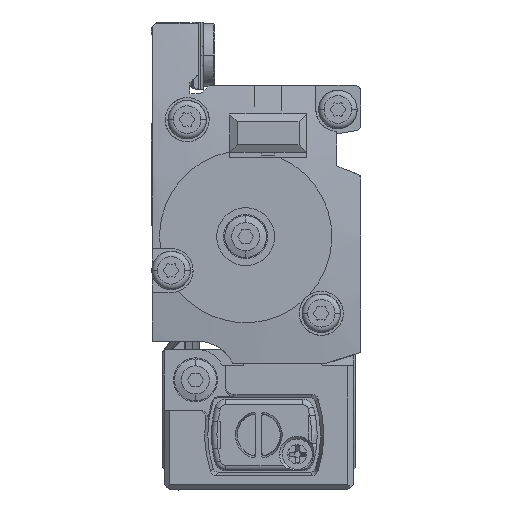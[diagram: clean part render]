
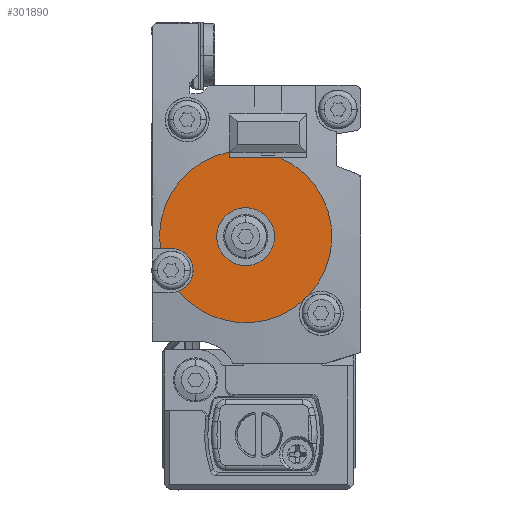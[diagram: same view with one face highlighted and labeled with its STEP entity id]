
A CAD part, left-side view. The second image highlights one B-rep face of the part: STEP entity #301890.
In plain terms, the highlighted planar face has unit normal (-1, 0, 0) as drawn and (0, 0, -1) by its records, which use the part's own axes.
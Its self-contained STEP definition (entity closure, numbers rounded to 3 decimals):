
#234040=CARTESIAN_POINT('',(-103.732,235.923,
-10.5));
#234050=VERTEX_POINT('',#234040);
#234080=CARTESIAN_POINT('',(-105.972,239.237,
-10.5));
#234090=DIRECTION('',(0.,0.,-1.));
#234100=DIRECTION('',(-1.,0.,0.));
#234110=AXIS2_PLACEMENT_3D('',#234080,#234090,#234100);
#234120=CIRCLE('',#234110,4.);
#234130=CARTESIAN_POINT('',(-102.627,237.044,
-10.5));
#234140=VERTEX_POINT('',#234130);
#234150=EDGE_CURVE('',#234140,#234050,#234120,.T.);
#256840=CARTESIAN_POINT('',(-97.3,225.495,
-10.5));
#256850=VERTEX_POINT('',#256840);
#256880=CARTESIAN_POINT('',(-92.05,225.495,
-10.5));
#256890=DIRECTION('',(0.,0.,-1.));
#256900=DIRECTION('',(-1.,0.,0.));
#256910=AXIS2_PLACEMENT_3D('',#256880,#256890,#256900);
#256920=CIRCLE('',#256910,5.25);
#256930=CARTESIAN_POINT('',(-86.8,225.495,
-10.5));
#256940=VERTEX_POINT('',#256930);
#256950=EDGE_CURVE('',#256940,#256850,#256920,.T.);
#297740=CARTESIAN_POINT('',(-94.188,211.959,
-10.5));
#297750=VERTEX_POINT('',#297740);
#297780=CARTESIAN_POINT('',(-98.188,211.959,
-10.5));
#297790=DIRECTION('',(0.,0.,-1.));
#297800=DIRECTION('',(-1.,0.,0.));
#297810=AXIS2_PLACEMENT_3D('',#297780,#297790,#297800);
#297820=CIRCLE('',#297810,4.);
#297830=CARTESIAN_POINT('',(-101.931,213.372,
-10.5));
#297840=VERTEX_POINT('',#297830);
#297850=EDGE_CURVE('',#297840,#297750,#297820,.T.);
#301380=CARTESIAN_POINT('',(-84.704,225.495,
-10.5));
#301390=DIRECTION('',(0.,0.,-1.));
#301400=DIRECTION('',(1.,0.,0.));
#301410=AXIS2_PLACEMENT_3D('',#301380,#301390,#301400);
#301420=PLANE('',#301410);
#301430=EDGE_CURVE('',#256850,#256940,#256920,.T.);
#301440=ORIENTED_EDGE('',*,*,#301430,.F.);
#301450=ORIENTED_EDGE('',*,*,#256950,.F.);
#301460=EDGE_LOOP('',(#301450,#301440));
#301470=FACE_BOUND('',#301460,.T.);
#301480=ORIENTED_EDGE('',*,*,#234150,.F.);
#301490=CARTESIAN_POINT('',(-92.051,225.509,
-10.5));
#301500=DIRECTION('',(0.,0.,-1.));
#301510=DIRECTION('',(1.,0.,0.));
#301520=AXIS2_PLACEMENT_3D('',#301490,#301500,#301510);
#301530=CIRCLE('',#301520,15.65);
#301540=EDGE_CURVE('',#297840,#234050,#301530,.T.);
#301550=ORIENTED_EDGE('',*,*,#301540,.T.);
#301560=ORIENTED_EDGE('',*,*,#297850,.F.);
#301570=CARTESIAN_POINT('',(-94.188,225.509,
-10.5));
#301580=DIRECTION('',(0.,1.,0.));
#301590=VECTOR('',#301580,1.);
#301600=LINE('',#301570,#301590);
#301610=CARTESIAN_POINT('',(-94.188,210.006,
-10.5));
#301620=VERTEX_POINT('',#301610);
#301630=EDGE_CURVE('',#301620,#297750,#301600,.T.);
#301640=ORIENTED_EDGE('',*,*,#301630,.T.);
#301650=CARTESIAN_POINT('',(-76.678,222.58,
-10.5));
#301660=VERTEX_POINT('',#301650);
#301670=EDGE_CURVE('',#301660,#301620,#301530,.T.);
#301680=ORIENTED_EDGE('',*,*,#301670,.T.);
#301690=CARTESIAN_POINT('',(-137.342,222.58,
-10.5));
#301700=DIRECTION('',(-1.,0.,0.));
#301710=VECTOR('',#301700,1.);
#301720=LINE('',#301690,#301710);
#301730=CARTESIAN_POINT('',(-77.669,222.58,
-10.5));
#301740=VERTEX_POINT('',#301730);
#301750=EDGE_CURVE('',#301660,#301740,#301720,.T.);
#301760=ORIENTED_EDGE('',*,*,#301750,.F.);
#301770=CARTESIAN_POINT('',(-77.669,225.509,
-10.5));
#301780=DIRECTION('',(0.,-1.,0.));
#301790=VECTOR('',#301780,1.);
#301800=LINE('',#301770,#301790);
#301810=CARTESIAN_POINT('',(-77.669,231.679,
-10.5));
#301820=VERTEX_POINT('',#301810);
#301830=EDGE_CURVE('',#301820,#301740,#301800,.T.);
#301840=ORIENTED_EDGE('',*,*,#301830,.T.);
#301850=EDGE_CURVE('',#234140,#301820,#301530,.T.);
#301860=ORIENTED_EDGE('',*,*,#301850,.T.);
#301870=EDGE_LOOP('',(#301860,#301840,#301760,#301680,#301640,#301560,
#301550,#301480));
#301880=FACE_OUTER_BOUND('',#301870,.T.);
#301890=ADVANCED_FACE('',(#301470,#301880),#301420,.T.);
